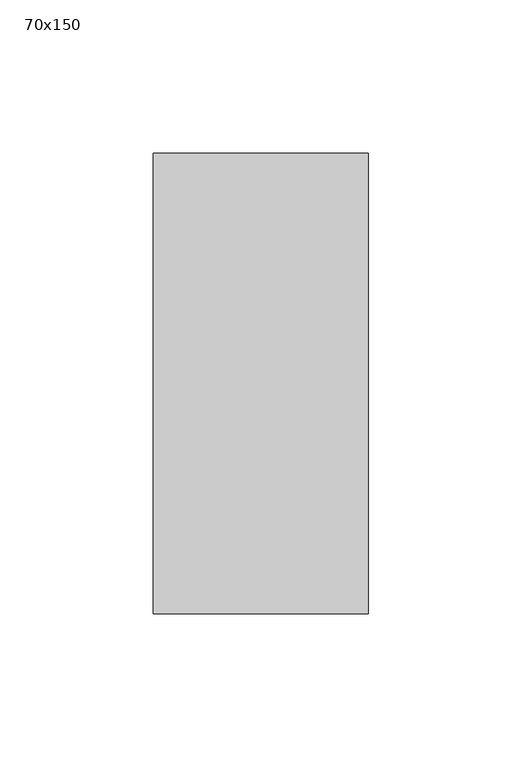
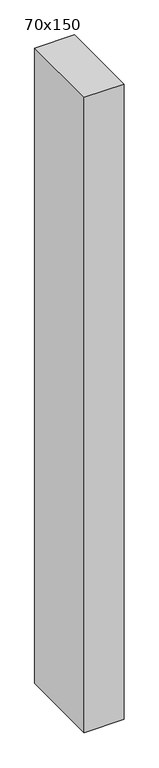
"""IFC4 building model written with IfcOpenShell, lengths in millimetres: member geometry, 長方形のマリオン : 70x150."""

from ifc_helpers import new_model, si_unit, frame, origin, place, context, project, spatial, polyline, outline, extrude, source, transform, mapped, element, save


def member_70x150_7321a808(model_context):
    return source(origin(), model_context, "Body", "SweptSolid", [
        extrude(outline(polyline([(0.0, 75.0), (0.0, -75.0), (-70.0, -75.0), (-70.0, 75.0), (0.0, 75.0)])), frame((0.0, 0.0, -1176.6408833), z_axis=(0.0, 0.0, 1.0), x_axis=(1.0, 0.0, 0.0)), (0.0, 0.0, 1.0), 1176.6408833),
    ])


if __name__ == "__main__":
    model = new_model("IFC4")
    model_context = context("Model", 3, world=origin())
    ifc_project = project(units=[si_unit("LENGTHUNIT", "METRE", prefix="MILLI")], contexts=[model_context])
    site = spatial("IfcSite", under=ifc_project)
    building = spatial("IfcBuilding", under=site)
    placement = place(None, origin())
    member_70x150_shape = member_70x150_7321a808(model_context)
    element("IfcMember", 1, ObjectType="長方形のマリオン : 70x150", at=placement, inside=building, context=model_context, shape_type="MappedRepresentation", body=[
        mapped(member_70x150_shape, transform((0.0, 0.0, 0.0), x_axis=(1.0, 0.0, 0.0), y_axis=(0.0, 1.0, 0.0), z_axis=(0.0, 0.0, 1.0))),
    ])
    save(model, "model.ifc")
